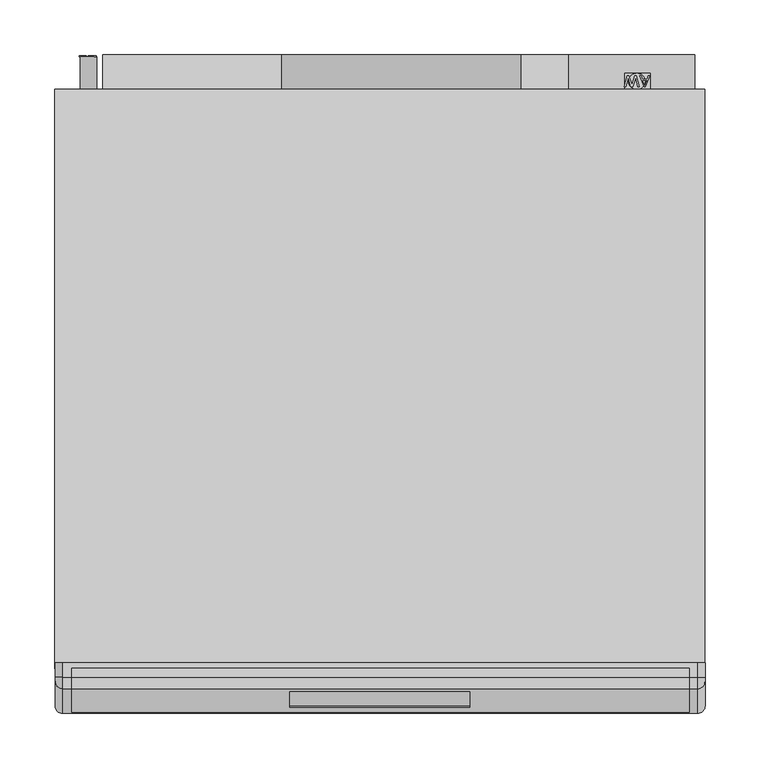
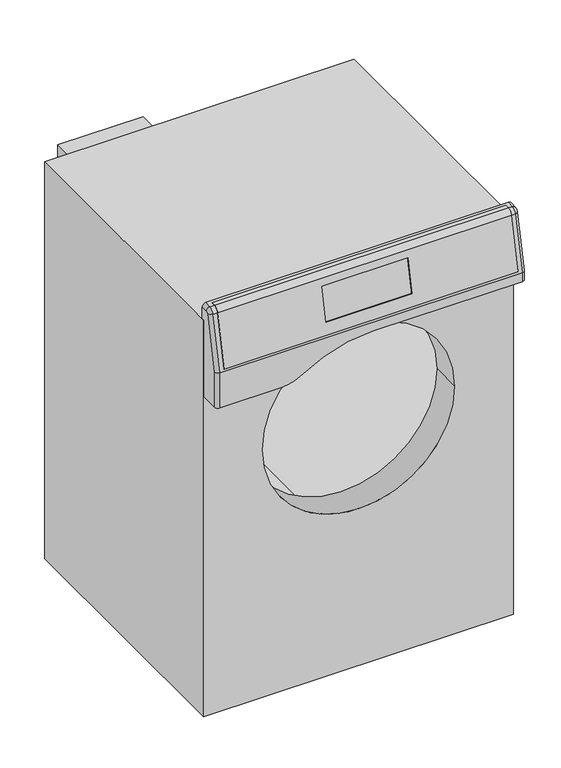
"""IFC4 building model written with IfcOpenShell, lengths in millimetres: proxy geometry, 12507220_NL_PDR1108HP_LWSmartBi : 52110801_NL_12507220_PDR1108HP_LWSmartBi."""

from ifc_helpers import new_model, si_unit, point, frame, frame_2d, origin, origin_with_axes, place, context, project, spatial, polyline, circle_curve, ellipse_curve, trimmed, segment, composite_curve, outline, extrude, source, transform, mapped, element, save
from ifc_brep_helpers import plane_surface, cylinder_surface, revolved_surface, advanced_brep


def specialty_equipment_631e05c3(model_context):
    return source(origin(), model_context, "Body", "SolidModel", [
        advanced_brep(
        [(284.0, -576.5042463, 835.7290958), (284.0, -566.9845398, 843.6465521), (284.0, -558.5, 843.8687276), (284.0, -558.5, 844.8690704), (284.0, -567.0107168, 844.6462094), (284.0, -577.4823939, 835.9370075), (284.0, -599.1497738, 734.0), (284.0, -598.1274332, 734.0), (-282.0, -576.5042463, 835.7290958), (-282.0, -598.1274332, 734.0), (-282.0, -599.1497738, 734.0), (-282.0, -577.4823939, 835.9370075), (-282.0, -567.0107168, 844.6462094), (-282.0, -558.5, 844.8690704), (-282.0, -558.5, 843.8687276), (-282.0, -566.9845398, 843.6465521), (82.5, -580.4447963, 822.0), (82.5, -594.2609728, 757.0), (-82.5, -594.2609728, 757.0), (-82.5, -580.4447963, 822.0), (82.5, -593.2386322, 757.0), (82.5, -579.4224557, 822.0), (-82.5, -579.4224557, 822.0), (-82.5, -593.2386322, 757.0)],
        [
            (0, 1, circle_curve(frame((284.0, -566.7227703, 833.6499789), z_axis=(-1.0, 0.0, 0.0), x_axis=(0.0, 1.0, 0.0)), 10.0)),
            (1, 2),
            (2, 3),
            (3, 4),
            (4, 5, circle_curve(frame((284.0, -566.7227703, 833.6499789), z_axis=(1.0, 0.0, 0.0), x_axis=(0.0, 1.0, 0.0)), 11.0)),
            (5, 6),
            (6, 7),
            (7, 0),
            (8, 9),
            (9, 10),
            (10, 11),
            (11, 12, circle_curve(frame((-282.0, -566.7227703, 833.6499789), z_axis=(-1.0, 0.0, 0.0), x_axis=(0.0, 1.0, 0.0)), 11.0)),
            (12, 13),
            (13, 14),
            (14, 15),
            (15, 8, circle_curve(frame((-282.0, -566.7227703, 833.6499789), z_axis=(1.0, 0.0, 0.0), x_axis=(0.0, 1.0, 0.0)), 10.0)),
            (0, 8),
            (15, 1),
            (14, 2),
            (13, 3),
            (12, 4),
            (11, 5),
            (10, 6),
            (16, 17),
            (17, 18),
            (18, 19),
            (19, 16),
            (9, 7),
            (20, 21),
            (21, 22),
            (22, 23),
            (23, 20),
            (20, 17),
            (16, 21),
            (22, 19),
            (18, 23),
        ],
        [
            plane_surface(frame((284.0, -556.7227703, 833.6499789), z_axis=(1.0, 0.0, 0.0), x_axis=(0.0, 0.0, -1.0))),
            plane_surface(frame((-282.0, -556.7227703, 833.6499789), z_axis=(-1.0, 0.0, 0.0), x_axis=(0.0, 0.0, 1.0))),
            revolved_surface(polyline([(-282.0, -556.7227703, 833.6499789), (284.0, -556.7227703, 833.6499789)]), (-282.0, -566.7227703, 833.6499789), (-1.0, 0.0, 0.0)),
            plane_surface(frame((284.0, -566.9845398, 843.6465521), z_axis=(0.0, 0.026176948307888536, -0.9996573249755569), x_axis=(-1.0, 0.0, 0.0))),
            plane_surface(frame((284.0, -558.5, 843.8687276), z_axis=(0.0, 1.0, 0.0), x_axis=(-1.0, 0.0, 0.0))),
            plane_surface(frame((284.0, -558.5, 844.8690704), z_axis=(0.0, -0.026176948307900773, 0.9996573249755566), x_axis=(-1.0, 0.0, 0.0))),
            cylinder_surface(frame((-282.0, -566.7227703, 833.6499789), z_axis=(1.0, 0.0, 0.0), x_axis=(0.0, 1.0, 0.0)), 11.0),
            plane_surface(frame((284.0, -577.4823939, 835.9370075), z_axis=(0.0, -0.9781476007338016, 0.2079116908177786), x_axis=(-1.0, 0.0, 0.0))),
            plane_surface(frame((284.0, -599.1497738, 734.0), z_axis=(0.0, 0.0, -1.0), x_axis=(-1.0, 0.0, 0.0))),
            plane_surface(frame((284.0, -598.1274332, 734.0), z_axis=(0.0, 0.9781476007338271, -0.20791169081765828), x_axis=(-1.0, 0.0, 0.0))),
            plane_surface(frame((82.5, -580.4447963, 822.0), z_axis=(-1.0, 0.0, 0.0), x_axis=(0.0, -1.0, 0.0))),
            plane_surface(frame((-82.5, -580.4447963, 822.0), z_axis=(1.0, 0.0, 0.0), x_axis=(0.0, 1.0, 0.0))),
            plane_surface(frame((82.5, -579.4224557, 822.0), z_axis=(0.0, 0.0, -1.0), x_axis=(-1.0, 0.0, 0.0))),
            plane_surface(frame((82.5, -594.2609728, 757.0), z_axis=(0.0, 0.0, 1.0), x_axis=(-1.0, 0.0, 0.0))),
        ],
        [
            (0, [[1, 2, 3, 4, 5, 6, 7, 8]]),
            (1, [[9, 10, 11, 12, 13, 14, 15, 16]]),
            (2, [[-1, 17, -16, 18]]),
            (3, [[-2, -18, -15, 19]]),
            (4, [[-3, -19, -14, 20]]),
            (5, [[-4, -20, -13, 21]]),
            (6, [[-5, -21, -12, 22]]),
            (7, [[-6, -22, -11, 23], [24, 25, 26, 27]]),
            (8, [[-7, -23, -10, 28]]),
            (9, [[-8, -28, -9, -17], [29, 30, 31, 32]]),
            (10, [[33, -24, 34, -29]]),
            (11, [[35, -26, 36, -31]]),
            (12, [[-34, -27, -35, -30]]),
            (13, [[-33, -32, -36, -25]]),
        ],
    ),
        advanced_brep(
        [(298.5, -559.0, 815.0), (298.5, -553.5, 815.0), (298.5, -553.5, 837.9976005), (298.5, -566.8274781, 837.6486082), (298.5, -570.6353607, 834.4816256), (298.5, -593.0, 729.2642704), (298.5, -593.0, 712.0), (298.5, -559.0, 712.0), (-297.5, -559.0, 815.0), (-297.5, -559.0, 659.0), (-297.5, -593.0, 659.0), (-297.5, -593.0, 729.2642704), (-297.5, -570.6353607, 834.4816256), (-297.5, -566.8274781, 837.6486082), (-297.5, -553.5, 837.9976005), (-297.5, -553.5, 815.0), (-290.5, -553.5, 845.0), (291.5, -553.5, 845.0), (284.0, -558.5, 844.8690704), (284.0, -567.0107168, 844.6462094), (291.5, -567.0107168, 844.6462094), (-290.5, -567.0107168, 844.6462094), (-282.0, -567.0107168, 844.6462094), (-282.0, -558.5, 844.8690704), (284.0, -577.4823939, 835.9370075), (291.5000072, -577.4823939, 835.9370075), (-282.0, -577.4823939, 835.9370075), (-290.5, -577.4823939, 835.9370075), (284.0, -599.1497738, 734.0), (-282.0, -599.1497738, 734.0), (-290.5, -600.0, 730.0), (291.5, -600.0, 730.0), (-290.5, -600.0, 659.0), (-170.6302935, -600.0, 659.0), (-135.780818, -600.0, 669.5165354), (5.0, -600.0, 712.0), (291.5, -600.0, 712.0), (-170.6302935, -559.0, 659.0), (5.0, -559.0, 712.0), (-135.780818, -559.0, 669.5165354), (284.0, -558.5, 843.8687276), (284.0, -566.9845398, 843.6465521), (284.0, -576.5042463, 835.7290958), (284.0, -598.1274332, 734.0), (-282.0, -598.1274332, 734.0), (-282.0, -576.5042463, 835.7290958), (-282.0, -566.9845398, 843.6465521), (-282.0, -558.5, 843.8687276)],
        [
            (0, 1),
            (1, 2),
            (2, 3),
            (3, 4, circle_curve(frame((298.5, -566.7227703, 833.6499789), z_axis=(1.0, 0.0, 0.0), x_axis=(0.0, -0.02617694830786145, 0.9996573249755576)), 4.0)),
            (4, 5),
            (5, 6),
            (6, 7),
            (7, 0),
            (8, 9),
            (9, 10),
            (10, 11),
            (11, 12),
            (12, 13, circle_curve(frame((-297.5, -566.7227703, 833.6499789), z_axis=(-1.0, 0.0, 0.0), x_axis=(0.0, -0.9781476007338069, 0.20791169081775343)), 4.0)),
            (13, 14),
            (14, 15),
            (15, 8),
            (0, 8),
            (15, 1),
            (14, 16, ellipse_curve(frame((-290.5, -553.5, 837.9976005), z_axis=(0.0, 1.0, 0.0), x_axis=(0.0, 0.0, 1.0)), 7.0023995, 7.0)),
            (16, 17),
            (17, 2, ellipse_curve(frame((291.5, -553.5, 837.9976005), z_axis=(0.0, 1.0, 0.0), x_axis=(0.0, 0.0, -1.0)), 7.0023995, 7.0)),
            (18, 19),
            (19, 20),
            (20, 17),
            (16, 21),
            (21, 22),
            (22, 23),
            (23, 18),
            (19, 24, circle_curve(frame((284.0, -566.7227703, 833.6499789), z_axis=(1.0, 0.0, 0.0), x_axis=(0.0, 1.0, 0.0)), 11.0)),
            (24, 25),
            (25, 20, circle_curve(frame((291.5, -566.7227703, 833.6499789), z_axis=(-1.0, 0.0, 0.0), x_axis=(0.0, 1.0, 0.0)), 11.0)),
            (26, 22, circle_curve(frame((-282.0, -566.7227703, 833.6499789), z_axis=(-1.0, 0.0, 0.0), x_axis=(0.0, 1.0, 0.0)), 11.0)),
            (21, 27, circle_curve(frame((-290.5, -566.7227703, 833.6499789), z_axis=(1.0, 0.0, 0.0), x_axis=(0.0, 1.0, 0.0)), 11.0)),
            (27, 26),
            (24, 28),
            (28, 29),
            (29, 26),
            (27, 30),
            (30, 31),
            (31, 25),
            (30, 32),
            (32, 33),
            (33, 34, circle_curve(frame((-170.6302935, -600.0, 722.0), z_axis=(0.0, -1.0, 0.0), x_axis=(1.0, 0.0, 0.0)), 63.0)),
            (34, 35, circle_curve(frame((5.0, -600.0, 457.5), z_axis=(0.0, 1.0, 0.0), x_axis=(1.0, 0.0, 0.0)), 254.5)),
            (35, 36),
            (36, 31),
            (9, 37),
            (37, 33),
            (32, 10, circle_curve(frame((-290.5, -593.0, 659.0), z_axis=(0.0, 0.0, -1.0), x_axis=(0.0, 1.0, 0.0)), 7.0)),
            (7, 38),
            (38, 39, circle_curve(frame((5.0, -559.0, 457.5), z_axis=(0.0, -1.0, 0.0), x_axis=(1.0, 0.0, 0.0)), 254.5)),
            (39, 37, circle_curve(frame((-170.6302935, -559.0, 722.0), z_axis=(0.0, 1.0, 0.0), x_axis=(1.0, 0.0, 0.0)), 63.0)),
            (18, 40),
            (40, 41),
            (41, 42, circle_curve(frame((284.0, -566.7227703, 833.6499789), z_axis=(1.0, 0.0, 0.0), x_axis=(0.0, 1.0, 0.0)), 10.0)),
            (42, 43),
            (43, 28),
            (29, 44),
            (44, 45),
            (45, 46, circle_curve(frame((-282.0, -566.7227703, 833.6499789), z_axis=(-1.0, 0.0, 0.0), x_axis=(0.0, 1.0, 0.0)), 10.0)),
            (46, 47),
            (47, 23),
            (43, 44),
            (42, 45),
            (41, 46),
            (40, 47),
            (30, 11, ellipse_curve(frame((-290.5, -593.0, 729.2642704), z_axis=(0.0, -0.10452846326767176, -0.9945218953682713), x_axis=(0.0, -0.9945218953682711, 0.10452846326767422)), 7.038558, 7.0)),
            (27, 12, circle_curve(frame((-290.5, -570.6353607, 834.4816256), z_axis=(0.0, -0.20791169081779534, -0.978147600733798), x_axis=(0.0, 0.978147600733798, -0.20791169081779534)), 7.0)),
            (21, 13, circle_curve(frame((-290.5, -566.8274781, 837.6486082), z_axis=(0.0, -0.9996573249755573, -0.026176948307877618), x_axis=(0.0, 0.026176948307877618, -0.9996573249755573)), 7.0)),
            (20, 3, circle_curve(frame((291.5, -566.8274781, 837.6486082), z_axis=(0.0, 0.9996573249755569, 0.026176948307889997), x_axis=(1.0, 0.0, 0.0)), 7.0)),
            (25, 4, circle_curve(frame((291.5, -570.6353607, 834.4816256), z_axis=(0.0, 0.20791169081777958, 0.9781476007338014), x_axis=(1.0, 0.0, 0.0)), 7.0)),
            (31, 5, ellipse_curve(frame((291.5, -593.0, 729.2642704), z_axis=(0.0, 0.10452846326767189, 0.9945218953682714), x_axis=(0.0, -0.9945218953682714, 0.1045284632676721)), 7.038558, 7.0)),
            (36, 6, circle_curve(frame((291.5, -593.0, 712.0), z_axis=(0.0, 0.0, 1.0), x_axis=(1.0, 0.0, 0.0)), 7.0)),
            (35, 38),
            (34, 39),
        ],
        [
            plane_surface(frame((298.5, -553.5, 815.0), z_axis=(1.0, 0.0, 0.0), x_axis=(0.0, 1.0, 0.0))),
            plane_surface(frame((-297.5, -553.5, 815.0), z_axis=(-1.0, 0.0, 0.0), x_axis=(0.0, -1.0, 0.0))),
            plane_surface(frame((298.5, -559.0, 815.0), z_axis=(0.0, 0.0, -1.0), x_axis=(-1.0, 0.0, 0.0))),
            plane_surface(frame((298.5, -553.5, 815.0), z_axis=(0.0, 1.0, 0.0), x_axis=(-1.0, 0.0, 0.0))),
            plane_surface(frame((298.5, -553.5, 845.0), z_axis=(0.0, -0.026176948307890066, 0.9996573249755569), x_axis=(-1.0, 0.0, 0.0))),
            cylinder_surface(frame((-297.5, -566.7227703, 833.6499789), z_axis=(1.0, 0.0, 0.0), x_axis=(0.0, 1.0, 0.0)), 11.0),
            plane_surface(frame((298.5, -577.4823939, 835.9370075), z_axis=(0.0, -0.978147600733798, 0.20791169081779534), x_axis=(-1.0, 0.0, 0.0))),
            plane_surface(frame((298.5, -600.0, 730.0), z_axis=(0.0, -1.0, 0.0), x_axis=(-1.0, 0.0, 0.0))),
            plane_surface(frame((298.5, -600.0, 659.0), z_axis=(0.0, 0.0, -1.0), x_axis=(-1.0, 0.0, 0.0))),
            plane_surface(frame((298.5, -559.0, 659.0), z_axis=(0.0, 1.0, 0.0), x_axis=(-1.0, 0.0, 0.0))),
            plane_surface(frame((284.0, -599.1497738, 734.0), z_axis=(-1.0, 0.0, 0.0), x_axis=(0.0, 1.0, 0.0))),
            plane_surface(frame((-282.0, -599.1497738, 734.0), z_axis=(1.0, 0.0, 0.0), x_axis=(0.0, -1.0, 0.0))),
            plane_surface(frame((284.0, -599.1497738, 734.0), z_axis=(0.0, 0.0, 1.0), x_axis=(-1.0, 0.0, 0.0))),
            plane_surface(frame((284.0, -598.1274332, 734.0), z_axis=(0.0, -0.9781476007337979, 0.20791169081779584), x_axis=(-1.0, 0.0, 0.0))),
            cylinder_surface(frame((-282.0, -566.7227703, 833.6499789), z_axis=(-1.0, 0.0, 0.0), x_axis=(0.0, 1.0, 0.0)), 10.0),
            plane_surface(frame((284.0, -566.9845398, 843.6465521), z_axis=(0.0, -0.026176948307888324, 0.9996573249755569), x_axis=(-1.0, 0.0, 0.0))),
            plane_surface(frame((284.0, -558.5, 843.8687276), z_axis=(0.0, -1.0, 0.0), x_axis=(-1.0, 0.0, 0.0))),
            cylinder_surface(frame((-290.5, -593.0, 659.0), z_axis=(0.0, 0.0, 1.0), x_axis=(0.0, 1.0, 0.0)), 7.0),
            cylinder_surface(frame((-290.5, -593.1529668, 728.5446182), z_axis=(0.0, 0.20791169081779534, 0.978147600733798), x_axis=(0.0, 0.978147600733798, -0.20791169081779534)), 7.0),
            revolved_surface(trimmed(ellipse_curve(frame((-290.5, -570.6353607, 834.4816256), z_axis=(0.0, -0.2079116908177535, -0.9781476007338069), x_axis=(0.0, 0.9781476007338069, -0.2079116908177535)), 7.0, 7.0), [point((-290.5, -577.4823939, 835.9370075))], [point((-297.5, -570.6353607, 834.4816256))], True, "CARTESIAN"), (-297.5, -566.7227703, 833.6499789), (-1.0, 0.0, 0.0)),
            cylinder_surface(frame((-290.5, -566.8274781, 837.6486082), z_axis=(0.0, 0.9996573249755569, 0.02617694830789), x_axis=(0.0, 0.02617694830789, -0.9996573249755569)), 7.0),
            cylinder_surface(frame((291.5, -553.3167614, 838.0023987), z_axis=(0.0, -0.9996573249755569, -0.026176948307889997), x_axis=(1.0, 0.0, 0.0)), 7.0),
            revolved_surface(trimmed(ellipse_curve(frame((291.5, -566.8274781, 837.6486082), z_axis=(0.0, 0.9996573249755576, 0.02617694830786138), x_axis=(1.0, 0.0, 0.0)), 7.0, 7.0), [point((291.5, -567.0107168, 844.6462094))], [point((298.5, -566.8274781, 837.6486082))], True, "CARTESIAN"), (298.5, -566.7227703, 833.6499789), (1.0, 0.0, 0.0)),
            cylinder_surface(frame((291.5, -570.6353607, 834.4816256), z_axis=(0.0, -0.20791169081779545, -0.9781476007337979), x_axis=(1.0, 0.0, 0.0)), 7.0),
            cylinder_surface(frame((291.5, -593.0, 730.0), z_axis=(0.0, 0.0, -1.0), x_axis=(1.0, 0.0, 0.0)), 7.0),
            plane_surface(frame((298.5, -600.0, 712.0), z_axis=(0.0, 0.0, -1.0), x_axis=(0.0, 1.0, 0.0))),
            revolved_surface(polyline([(259.5, -600.0, 457.5), (259.5, -559.0, 457.5)]), (5.0, -559.0, 457.5), (0.0, -1.0, 0.0)),
            cylinder_surface(frame((-170.6302935, -559.0, 722.0), z_axis=(0.0, 1.0, 0.0), x_axis=(1.0, 0.0, 0.0)), 63.0),
        ],
        [
            (0, [[1, 2, 3, 4, 5, 6, 7, 8]]),
            (1, [[9, 10, 11, 12, 13, 14, 15, 16]]),
            (2, [[-1, 17, -16, 18]]),
            (3, [[-18, -15, 19, 20, 21, -2]]),
            (4, [[22, 23, 24, -20, 25, 26, 27, 28]]),
            (5, [[29, 30, 31, -23]]),
            (5, [[32, -26, 33, 34]]),
            (6, [[35, 36, 37, -34, 38, 39, 40, -30]]),
            (7, [[41, 42, 43, 44, 45, 46, -39]]),
            (8, [[-10, 47, 48, -42, 49]]),
            (9, [[-9, -17, -8, 50, 51, 52, -47]]),
            (10, [[53, 54, 55, 56, 57, -35, -29, -22]]),
            (11, [[58, 59, 60, 61, 62, -27, -32, -37]]),
            (12, [[-57, 63, -58, -36]]),
            (13, [[-56, 64, -59, -63]]),
            (14, [[-55, 65, -60, -64]]),
            (15, [[-54, 66, -61, -65]]),
            (16, [[-53, -28, -62, -66]]),
            (17, [[67, -11, -49, -41]]),
            (18, [[-67, -38, 68, -12]]),
            (19, [[-68, -33, 69, -13]]),
            (20, [[-69, -25, -19, -14]]),
            (21, [[70, -3, -21, -24]]),
            (22, [[-70, -31, 71, -4]]),
            (23, [[-71, -40, 72, -5]]),
            (24, [[-72, -46, 73, -6]]),
            (25, [[74, -50, -7, -73, -45]]),
            (26, [[-74, -44, 75, -51]]),
            (27, [[-75, -43, -48, -52]]),
        ],
    ),
        extrude(outline(polyline([(247.0, -259.6227397), (257.045631, -259.6227397), (257.045631, -266.843037), (255.7899271, -266.843037), (255.7899271, -260.8784436), (252.8076304, -260.8784436), (252.8076304, -266.529111), (251.5519266, -266.529111), (251.5519266, -260.8784436), (248.2557039, -260.8784436), (248.2557039, -267.0), (247.0, -267.0), (247.0, -259.6227397)])), frame((0.0, 2.0, 0.0), z_axis=(0.0, 1.0, 0.0), x_axis=(0.0, 0.0, 1.0)), (0.0, 0.0, 1.0), 1.0),
        extrude(outline(polyline([(247.0, -268.8835558), (257.045631, -268.8835558), (257.045631, -270.1392597), (248.2557039, -270.1392597), (248.2557039, -275.1620752), (247.0, -275.1620752), (247.0, -268.8835558)])), frame((0.0, 2.0, 0.0), z_axis=(0.0, 1.0, 0.0), x_axis=(0.0, 0.0, 1.0)), (0.0, 0.0, 1.0), 1.0),
        extrude(outline(polyline([(247.6839322, -15.5), (243.6740184, -25.545631), (242.6047081, -25.545631), (238.5972469, -15.5), (239.9240746, -15.5), (241.0718664, -18.6392597), (245.2117652, -18.6392597), (246.359557, -15.5), (247.6839322, -15.5)]), holes=[polyline([(244.7506864, -19.8949636), (241.5304927, -19.8949636), (242.4379349, -22.364678), (243.1418158, -24.2899271), (243.7672152, -22.5805021), (244.7506864, -19.8949636)])]), frame((0.0, 0.0, 306.0), z_axis=(0.0, 0.0, 1.0), x_axis=(1.0, 0.0, 0.0)), (0.0, 0.0, 1.0), 1.0),
        extrude(outline(polyline([(235.4579872, -15.5), (238.1974818, -25.545631), (236.9025372, -25.545631), (235.3132869, -18.9433755), (234.8227776, -16.9053092), (234.2979326, -18.707931), (232.3064648, -25.545631), (230.4400768, -25.545631), (228.9930743, -20.5890343), (227.9164063, -16.9053092), (227.4406122, -18.8845144), (225.8390993, -25.545631), (224.5417021, -25.545631), (227.2787442, -15.5), (228.6227397, -15.5), (231.0335931, -23.2500474), (231.369592, -24.3316204), (231.7472841, -23.0293182), (233.9423134, -15.5), (235.4579872, -15.5)])), frame((0.0, 0.0, 306.0), z_axis=(0.0, 0.0, 1.0), x_axis=(1.0, 0.0, 0.0)), (0.0, 0.0, 1.0), 1.0),
        extrude(outline(composite_curve([segment(trimmed(circle_curve(frame_2d((236.0, -20.5)), 7.5), [point((228.5, -20.5))], [point((243.5, -20.5))], False, "CARTESIAN"), True, "CONTINUOUS"), segment(trimmed(circle_curve(frame_2d((236.0, -20.5)), 7.5), [point((243.5, -20.5))], [point((228.5, -20.5))], False, "CARTESIAN"), True, "CONTINUOUS")], self_intersect=False)), frame((0.0, 0.0, 276.0), z_axis=(0.0, 0.0, 1.0), x_axis=(1.0, 0.0, 0.0)), (0.0, 0.0, 1.0), 30.0),
        extrude(outline(composite_curve([segment(trimmed(circle_curve(frame_2d((252.0, -267.0)), 7.5), [point((252.0, -259.5))], [point((252.0, -274.5))], False, "CARTESIAN"), True, "CONTINUOUS"), segment(trimmed(circle_curve(frame_2d((252.0, -267.0)), 7.5), [point((252.0, -274.5))], [point((252.0, -259.5))], False, "CARTESIAN"), True, "CONTINUOUS")], self_intersect=False)), frame((0.0, -28.0, 0.0), z_axis=(0.0, 1.0, 0.0), x_axis=(0.0, 0.0, 1.0)), (0.0, 0.0, 1.0), 30.0),
        advanced_brep(
        [(-185.0, -501.5, 512.0), (-185.0, -559.0, 512.0), (185.0, -559.0, 512.0), (185.0, -501.5, 512.0), (298.0, -28.0, 815.0), (298.0, -28.0, 8.0), (-298.0, -28.0, 8.0), (-298.0, -28.0, 815.0), (298.0, -559.0, 815.0), (-298.0, -559.0, 815.0), (-298.0, -559.0, 8.0), (298.0, -559.0, 8.0), (298.0, -470.0, 649.0), (298.0, -470.0, 719.0), (298.0, -120.0, 719.0), (298.0, -120.0, 649.0), (298.0, -470.0, 552.0), (298.0, -470.0, 622.0), (298.0, -120.0, 622.0), (298.0, -120.0, 552.0), (298.0, -470.0, 205.5), (298.0, -470.0, 275.5), (298.0, -120.0, 275.5), (298.0, -120.0, 205.5), (298.0, -470.0, 108.5), (298.0, -470.0, 178.5), (298.0, -120.0, 178.5), (298.0, -120.0, 108.5), (0.0, -51.0, 227.0), (0.0, -51.0, 797.0), (0.0, -501.5, 227.0), (0.0, -501.5, 797.0), (291.0, -470.0, 719.0), (291.0, -470.0, 649.0), (291.0, -120.0, 649.0), (291.0, -120.0, 719.0), (291.0, -470.0, 622.0), (291.0, -470.0, 552.0), (291.0, -120.0, 552.0), (291.0, -120.0, 622.0), (291.0, -470.0, 275.5), (291.0, -470.0, 205.5), (291.0, -120.0, 205.5), (291.0, -120.0, 275.5), (291.0, -470.0, 178.5), (291.0, -470.0, 108.5), (291.0, -120.0, 108.5), (291.0, -120.0, 178.5)],
        [
            (0, 1),
            (1, 2, circle_curve(frame((0.0, -559.0, 512.0), z_axis=(0.0, -1.0, 0.0), x_axis=(-1.0, 0.0, 0.0)), 185.0)),
            (2, 3),
            (3, 0, circle_curve(frame((0.0, -501.5, 512.0), z_axis=(0.0, 1.0, 0.0), x_axis=(-1.0, 0.0, 0.0)), 185.0)),
            (0, 3, circle_curve(frame((0.0, -501.5, 512.0), z_axis=(0.0, 1.0, 0.0), x_axis=(-1.0, 0.0, 0.0)), 185.0)),
            (2, 1, circle_curve(frame((0.0, -559.0, 512.0), z_axis=(0.0, -1.0, 0.0), x_axis=(-1.0, 0.0, 0.0)), 185.0)),
            (4, 5),
            (5, 6),
            (6, 7),
            (7, 4),
            (8, 9),
            (9, 10),
            (10, 11),
            (11, 8),
            (4, 8),
            (11, 5),
            (12, 13, circle_curve(frame((298.0, -470.0, 684.0), z_axis=(-1.0, 0.0, 0.0), x_axis=(0.0, 1.0, 0.0)), 35.0)),
            (13, 14),
            (14, 15, circle_curve(frame((298.0, -120.0, 684.0), z_axis=(-1.0, 0.0, 0.0), x_axis=(0.0, 1.0, 0.0)), 35.0)),
            (15, 12),
            (16, 17, circle_curve(frame((298.0, -470.0, 587.0), z_axis=(-1.0, 0.0, 0.0), x_axis=(0.0, 1.0, 0.0)), 35.0)),
            (17, 18),
            (18, 19, circle_curve(frame((298.0, -120.0, 587.0), z_axis=(-1.0, 0.0, 0.0), x_axis=(0.0, 1.0, 0.0)), 35.0)),
            (19, 16),
            (20, 21, circle_curve(frame((298.0, -470.0, 240.5), z_axis=(-1.0, 0.0, 0.0), x_axis=(0.0, 1.0, 0.0)), 35.0)),
            (21, 22),
            (22, 23, circle_curve(frame((298.0, -120.0, 240.5), z_axis=(-1.0, 0.0, 0.0), x_axis=(0.0, 1.0, 0.0)), 35.0)),
            (23, 20),
            (24, 25, circle_curve(frame((298.0, -470.0, 143.5), z_axis=(-1.0, 0.0, 0.0), x_axis=(0.0, 1.0, 0.0)), 35.0)),
            (25, 26),
            (26, 27, circle_curve(frame((298.0, -120.0, 143.5), z_axis=(-1.0, 0.0, 0.0), x_axis=(0.0, 1.0, 0.0)), 35.0)),
            (27, 24),
            (10, 6),
            (9, 7),
            (28, 29, circle_curve(frame((0.0, -51.0, 512.0), z_axis=(0.0, -1.0, 0.0), x_axis=(0.0, 0.0, 1.0)), 285.0)),
            (29, 28, circle_curve(frame((0.0, -51.0, 512.0), z_axis=(0.0, -1.0, 0.0), x_axis=(0.0, 0.0, 1.0)), 285.0)),
            (30, 31, circle_curve(frame((0.0, -501.5, 512.0), z_axis=(0.0, 1.0, 0.0), x_axis=(0.0, 0.0, 1.0)), 285.0)),
            (31, 30, circle_curve(frame((0.0, -501.5, 512.0), z_axis=(0.0, 1.0, 0.0), x_axis=(0.0, 0.0, 1.0)), 285.0)),
            (28, 30),
            (31, 29),
            (32, 33, circle_curve(frame((291.0, -470.0, 684.0), z_axis=(1.0, 0.0, 0.0), x_axis=(0.0, 1.0, 0.0)), 35.0)),
            (33, 34),
            (34, 35, circle_curve(frame((291.0, -120.0, 684.0), z_axis=(1.0, 0.0, 0.0), x_axis=(0.0, 1.0, 0.0)), 35.0)),
            (35, 32),
            (36, 37, circle_curve(frame((291.0, -470.0, 587.0), z_axis=(1.0, 0.0, 0.0), x_axis=(0.0, 1.0, 0.0)), 35.0)),
            (37, 38),
            (38, 39, circle_curve(frame((291.0, -120.0, 587.0), z_axis=(1.0, 0.0, 0.0), x_axis=(0.0, 1.0, 0.0)), 35.0)),
            (39, 36),
            (40, 41, circle_curve(frame((291.0, -470.0, 240.5), z_axis=(1.0, 0.0, 0.0), x_axis=(0.0, 1.0, 0.0)), 35.0)),
            (41, 42),
            (42, 43, circle_curve(frame((291.0, -120.0, 240.5), z_axis=(1.0, 0.0, 0.0), x_axis=(0.0, 1.0, 0.0)), 35.0)),
            (43, 40),
            (44, 45, circle_curve(frame((291.0, -470.0, 143.5), z_axis=(1.0, 0.0, 0.0), x_axis=(0.0, 1.0, 0.0)), 35.0)),
            (45, 46),
            (46, 47, circle_curve(frame((291.0, -120.0, 143.5), z_axis=(1.0, 0.0, 0.0), x_axis=(0.0, 1.0, 0.0)), 35.0)),
            (47, 44),
            (32, 13),
            (12, 33),
            (15, 34),
            (14, 35),
            (36, 17),
            (16, 37),
            (19, 38),
            (18, 39),
            (40, 21),
            (20, 41),
            (23, 42),
            (22, 43),
            (44, 25),
            (24, 45),
            (27, 46),
            (26, 47),
        ],
        [
            revolved_surface(polyline([(-185.0, -501.5, 512.0), (-185.0, -559.0, 512.0)]), (0.0, -559.0, 512.0), (0.0, 1.0, 0.0)),
            plane_surface(frame((298.0, -28.0, 815.0), z_axis=(0.0, 1.0, 0.0), x_axis=(0.0, 0.0, -1.0))),
            plane_surface(frame((298.0, -559.0, 815.0), z_axis=(0.0, -1.0, 0.0), x_axis=(0.0, 0.0, 1.0))),
            plane_surface(frame((298.0, -28.0, 815.0), z_axis=(1.0, 0.0, 0.0), x_axis=(0.0, -1.0, 0.0))),
            plane_surface(frame((298.0, -28.0, 8.0), z_axis=(0.0, 0.0, -1.0), x_axis=(0.0, -1.0, 0.0))),
            plane_surface(frame((-298.0, -28.0, 8.0), z_axis=(-1.0, 0.0, 0.0), x_axis=(0.0, -1.0, 0.0))),
            plane_surface(frame((-298.0, -28.0, 815.0), z_axis=(0.0, 0.0, 1.0), x_axis=(0.0, -1.0, 0.0))),
            plane_surface(frame((0.0, -51.0, 797.0), z_axis=(0.0, -1.0, 0.0), x_axis=(1.0, 0.0, 0.0))),
            plane_surface(frame((0.0, -501.5, 797.0), z_axis=(0.0, 1.0, 0.0), x_axis=(-1.0, 0.0, 0.0))),
            revolved_surface(polyline([(0.0, -501.5, 797.0), (0.0, -51.0, 797.0)]), (0.0, -51.0, 512.0), (0.0, -1.0, 0.0)),
            plane_surface(frame((291.0, -435.0, 684.0), z_axis=(1.0, 0.0, 0.0), x_axis=(0.0, 0.0, -1.0))),
            revolved_surface(polyline([(298.0, -435.0, 684.0), (291.0, -435.0, 684.0)]), (291.0, -470.0, 684.0), (1.0, 0.0, 0.0)),
            plane_surface(frame((298.0, -470.0, 649.0), z_axis=(0.0, 0.0, 1.0), x_axis=(-1.0, 0.0, 0.0))),
            revolved_surface(polyline([(298.0, -85.0, 684.0), (291.0, -85.0, 684.0)]), (291.0, -120.0, 684.0), (1.0, 0.0, 0.0)),
            plane_surface(frame((298.0, -120.0, 719.0), z_axis=(0.0, 0.0, -1.0), x_axis=(-1.0, 0.0, 0.0))),
            revolved_surface(polyline([(298.0, -435.0, 587.0), (291.0, -435.0, 587.0)]), (298.0, -470.0, 587.0), (1.0, 0.0, 0.0)),
            plane_surface(frame((298.0, -470.0, 552.0), z_axis=(0.0, 0.0, 1.0), x_axis=(-1.0, 0.0, 0.0))),
            revolved_surface(polyline([(298.0, -85.0, 587.0), (291.0, -85.0, 587.0)]), (298.0, -120.0, 587.0), (1.0, 0.0, 0.0)),
            plane_surface(frame((298.0, -120.0, 622.0), z_axis=(0.0, 0.0, -1.0), x_axis=(-1.0, 0.0, 0.0))),
            revolved_surface(polyline([(298.0, -435.0, 240.5), (291.0, -435.0, 240.5)]), (298.0, -470.0, 240.5), (1.0, 0.0, 0.0)),
            plane_surface(frame((298.0, -470.0, 205.5), z_axis=(0.0, 0.0, 1.0), x_axis=(-1.0, 0.0, 0.0))),
            revolved_surface(polyline([(298.0, -85.0, 240.5), (291.0, -85.0, 240.5)]), (298.0, -120.0, 240.5), (1.0, 0.0, 0.0)),
            plane_surface(frame((298.0, -120.0, 275.5), z_axis=(0.0, 0.0, -1.0), x_axis=(-1.0, 0.0, 0.0))),
            revolved_surface(polyline([(298.0, -435.0, 143.5), (291.0, -435.0, 143.5)]), (298.0, -470.0, 143.5), (1.0, 0.0, 0.0)),
            plane_surface(frame((298.0, -470.0, 108.5), z_axis=(0.0, 0.0, 1.0), x_axis=(-1.0, 0.0, 0.0))),
            revolved_surface(polyline([(298.0, -85.0, 143.5), (291.0, -85.0, 143.5)]), (298.0, -120.0, 143.5), (1.0, 0.0, 0.0)),
            plane_surface(frame((298.0, -120.0, 178.5), z_axis=(0.0, 0.0, -1.0), x_axis=(-1.0, 0.0, 0.0))),
        ],
        [
            (0, [[1, 2, 3, 4]]),
            (0, [[-1, 5, -3, 6]]),
            (1, [[7, 8, 9, 10]]),
            (2, [[11, 12, 13, 14], [-2, -6]]),
            (3, [[-7, 15, -14, 16], [17, 18, 19, 20], [21, 22, 23, 24], [25, 26, 27, 28], [29, 30, 31, 32]]),
            (4, [[-8, -16, -13, 33]]),
            (5, [[-9, -33, -12, 34]]),
            (6, [[-10, -34, -11, -15]]),
            (7, [[35, 36]]),
            (8, [[37, 38], [-4, -5]]),
            (9, [[-35, 39, -38, 40]]),
            (9, [[-36, -40, -37, -39]]),
            (10, [[41, 42, 43, 44]]),
            (10, [[45, 46, 47, 48]]),
            (10, [[49, 50, 51, 52]]),
            (10, [[53, 54, 55, 56]]),
            (11, [[-41, 57, -17, 58]]),
            (12, [[-42, -58, -20, 59]]),
            (13, [[-43, -59, -19, 60]]),
            (14, [[-44, -60, -18, -57]]),
            (15, [[-45, 61, -21, 62]]),
            (16, [[-46, -62, -24, 63]]),
            (17, [[-47, -63, -23, 64]]),
            (18, [[-48, -64, -22, -61]]),
            (19, [[-49, 65, -25, 66]]),
            (20, [[-50, -66, -28, 67]]),
            (21, [[-51, -67, -27, 68]]),
            (22, [[-52, -68, -26, -65]]),
            (23, [[-53, 69, -29, 70]]),
            (24, [[-54, -70, -32, 71]]),
            (25, [[-55, -71, -31, 72]]),
            (26, [[-56, -72, -30, -69]]),
        ],
    ),
        extrude(outline(composite_curve([segment(trimmed(circle_curve(frame_2d((-267.5, -61.0)), 16.0), [point((-251.5, -61.0))], [point((-283.5, -61.0))], False, "CARTESIAN"), True, "CONTINUOUS"), segment(trimmed(circle_curve(frame_2d((-267.5, -61.0)), 16.0), [point((-283.5, -61.0))], [point((-251.5, -61.0))], False, "CARTESIAN"), True, "CONTINUOUS")], self_intersect=False)), origin_with_axes(), (0.0, 0.0, 1.0), 8.0),
        extrude(outline(composite_curve([segment(trimmed(circle_curve(frame_2d((267.5, -61.0)), 16.0), [point((283.5, -61.0))], [point((251.5, -61.0))], False, "CARTESIAN"), True, "CONTINUOUS"), segment(trimmed(circle_curve(frame_2d((267.5, -61.0)), 16.0), [point((251.5, -61.0))], [point((283.5, -61.0))], False, "CARTESIAN"), True, "CONTINUOUS")], self_intersect=False)), origin_with_axes(), (0.0, 0.0, 1.0), 8.0),
        extrude(outline(composite_curve([segment(trimmed(circle_curve(frame_2d((267.5, -531.0)), 16.0), [point((283.5, -531.0))], [point((251.5, -531.0))], False, "CARTESIAN"), True, "CONTINUOUS"), segment(trimmed(circle_curve(frame_2d((267.5, -531.0)), 16.0), [point((251.5, -531.0))], [point((283.5, -531.0))], False, "CARTESIAN"), True, "CONTINUOUS")], self_intersect=False)), origin_with_axes(), (0.0, 0.0, 1.0), 8.0),
        extrude(outline(composite_curve([segment(trimmed(circle_curve(frame_2d((-267.5, -531.0)), 16.0), [point((-251.5, -531.0))], [point((-283.5, -531.0))], False, "CARTESIAN"), True, "CONTINUOUS"), segment(trimmed(circle_curve(frame_2d((-267.5, -531.0)), 16.0), [point((-283.5, -531.0))], [point((-251.5, -531.0))], False, "CARTESIAN"), True, "CONTINUOUS")], self_intersect=False)), origin_with_axes(), (0.0, 0.0, 1.0), 8.0),
        advanced_brep(
        [(-8.0, 4.0, 14.0), (-125.6828173, 4.0, 486.0), (128.0718894, 4.0, 498.0), (106.0, 4.0, 288.0), (173.0, 4.0, 288.0), (289.0, 4.0, 172.0), (289.0, 4.0, 131.0), (203.9473319, 4.0, 14.0), (106.0, -28.0, 288.0), (128.0718894, -28.0, 498.0), (-125.6828173, -28.0, 486.0), (-8.0, -28.0, 14.0), (203.9473319, -28.0, 14.0), (289.0, -28.0, 131.0), (289.0, -28.0, 172.0), (248.0, -28.0, 260.4929376), (248.0, -28.0, 276.0), (225.0, -28.0, 276.0), (225.0, -28.0, 275.6918512), (173.0, -28.0, 288.0), (225.0, -13.0, 275.6918512), (248.0, -13.0, 260.4929376), (225.0, -13.0, 276.0), (248.0, -13.0, 276.0)],
        [
            (0, 1),
            (1, 2, circle_curve(frame((-0.003567, 4.0, 517.3353565), z_axis=(0.0, 1.0, 0.0), x_axis=(-1.0, 0.0, 0.0)), 129.5267484)),
            (2, 3),
            (3, 4),
            (4, 5, circle_curve(frame((173.0, 4.0, 172.0), z_axis=(0.0, 1.0, 0.0), x_axis=(-1.0, 0.0, 0.0)), 116.0)),
            (5, 6),
            (6, 7, circle_curve(frame((166.0, 4.0, 131.0), z_axis=(0.0, 1.0, 0.0), x_axis=(-1.0, 0.0, 0.0)), 123.0)),
            (7, 0),
            (8, 9),
            (9, 10, circle_curve(frame((-0.003567, -28.0, 517.3353565), z_axis=(0.0, -1.0, 0.0), x_axis=(-1.0, 0.0, 0.0)), 129.5267484)),
            (10, 11),
            (11, 12),
            (12, 13, circle_curve(frame((166.0, -28.0, 131.0), z_axis=(0.0, -1.0, 0.0), x_axis=(-1.0, 0.0, 0.0)), 123.0)),
            (13, 14),
            (14, 15, circle_curve(frame((173.0, -28.0, 172.0), z_axis=(0.0, -1.0, 0.0), x_axis=(-1.0, 0.0, 0.0)), 116.0)),
            (15, 16),
            (16, 17),
            (17, 18),
            (18, 19, circle_curve(frame((173.0, -28.0, 172.0), z_axis=(0.0, -1.0, 0.0), x_axis=(-1.0, 0.0, 0.0)), 116.0)),
            (19, 8),
            (13, 6),
            (5, 14),
            (11, 0),
            (7, 12),
            (10, 1),
            (3, 8),
            (19, 4),
            (9, 2),
            (18, 20),
            (20, 21, circle_curve(frame((173.0, -13.0, 172.0), z_axis=(0.0, 1.0, 0.0), x_axis=(-1.0, 0.0, 0.0)), 116.0)),
            (21, 15),
            (22, 23),
            (23, 21),
            (20, 22),
            (22, 17),
            (16, 23),
        ],
        [
            plane_surface(frame((289.0, 4.0, 14.0), z_axis=(0.0, 1.0, 0.0), x_axis=(0.0, 0.0, -1.0))),
            plane_surface(frame((289.0, -28.0, 14.0), z_axis=(0.0, -1.0, 0.0), x_axis=(0.0, 0.0, 1.0))),
            plane_surface(frame((289.0, 4.0, 288.0), z_axis=(1.0, 0.0, 0.0), x_axis=(0.0, -1.0, 0.0))),
            plane_surface(frame((289.0, 4.0, 14.0), z_axis=(0.0, 0.0, -1.0), x_axis=(0.0, -1.0, 0.0))),
            plane_surface(frame((-8.0, 4.0, 14.0), z_axis=(-0.970295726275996, 0.0, -0.2419218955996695), x_axis=(0.0, -1.0, 0.0))),
            plane_surface(frame((106.0, 4.0, 288.0), z_axis=(0.0, 0.0, 1.0), x_axis=(0.0, -1.0, 0.0))),
            cylinder_surface(frame((-0.003567, -28.0, 517.3353565), z_axis=(0.0, 1.0, 0.0), x_axis=(-1.0, 0.0, 0.0)), 129.5267484),
            plane_surface(frame((128.0718894, 4.0, 498.0), z_axis=(0.9945218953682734, 0.0, -0.10452846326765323), x_axis=(0.0, -1.0, 0.0))),
            cylinder_surface(frame((166.0, -28.0, 131.0), z_axis=(0.0, -1.0, 0.0), x_axis=(-1.0, 0.0, 0.0)), 123.0),
            cylinder_surface(frame((173.0, -28.0, 172.0), z_axis=(0.0, -1.0, 0.0), x_axis=(-1.0, 0.0, 0.0)), 116.0),
            plane_surface(frame((248.0, -13.0, 276.0), z_axis=(0.0, 1.0, 0.0), x_axis=(1.0, 0.0, 0.0))),
            plane_surface(frame((225.0, -13.0, 276.0), z_axis=(0.0, 0.0, 1.0), x_axis=(0.0, -1.0, 0.0))),
            plane_surface(frame((248.0, -13.0, 276.0), z_axis=(1.0, 0.0, 0.0), x_axis=(0.0, -1.0, 0.0))),
            plane_surface(frame((225.0, -13.0, 259.1798006), z_axis=(-1.0, 0.0, 0.0), x_axis=(0.0, -1.0, 0.0))),
        ],
        [
            (0, [[1, 2, 3, 4, 5, 6, 7, 8]]),
            (1, [[9, 10, 11, 12, 13, 14, 15, 16, 17, 18, 19, 20]]),
            (2, [[21, -6, 22, -14]]),
            (3, [[23, -8, 24, -12]]),
            (4, [[-1, -23, -11, 25]]),
            (5, [[26, -20, 27, -4]]),
            (6, [[-2, -25, -10, 28]]),
            (7, [[-3, -28, -9, -26]]),
            (8, [[-7, -21, -13, -24]]),
            (9, [[-5, -27, -19, 29, 30, 31, -15, -22]]),
            (10, [[32, 33, -30, 34]]),
            (11, [[-32, 35, -17, 36]]),
            (12, [[-36, -16, -31, -33]]),
            (13, [[-35, -34, -29, -18]]),
        ],
    ),
        extrude(outline(composite_curve([segment(polyline([(226.0, -87.0), (342.0, -122.464759)]), True, "CONTINUOUS"), segment(trimmed(circle_curve(frame_2d((324.1353162, -180.897507)), 61.1026428), [point((342.0, -122.464759))], [point((324.0, -242.0))], False, "CARTESIAN"), True, "CONTINUOUS"), segment(polyline([(324.0, -242.0), (107.0, -242.0)]), True, "CONTINUOUS"), segment(trimmed(circle_curve(frame_2d((107.0, -164.5)), 77.5), [point((107.0, -242.0))], [point((107.0, -87.0))], False, "CARTESIAN"), True, "CONTINUOUS"), segment(polyline([(107.0, -87.0), (226.0, -87.0)]), True, "CONTINUOUS")], self_intersect=False)), frame((0.0, -28.0, 0.0), z_axis=(0.0, 1.0, 0.0), x_axis=(0.0, 0.0, 1.0)), (0.0, 0.0, 1.0), 15.0),
        extrude(outline(composite_curve([segment(polyline([(815.0, -254.0), (686.0, -254.0), (686.0, -183.0)]), True, "CONTINUOUS"), segment(trimmed(circle_curve(frame_2d((791.447606, -193.8075151)), 106.0), [point((686.0, -183.0))], [point((770.0, -90.0))], False, "CARTESIAN"), True, "CONTINUOUS"), segment(polyline([(770.0, -90.0), (815.0, -90.0), (815.0, -254.0)]), True, "CONTINUOUS")], self_intersect=False)), frame((0.0, -28.0, 0.0), z_axis=(0.0, 1.0, 0.0), x_axis=(0.0, 0.0, 1.0)), (0.0, 0.0, 1.0), 32.0),
    ])


if __name__ == "__main__":
    model = new_model("IFC4")
    model_context = context("Model", 3, world=origin())
    ifc_project = project(units=[si_unit("LENGTHUNIT", "METRE", prefix="MILLI")], contexts=[model_context])
    site = spatial("IfcSite", under=ifc_project)
    building = spatial("IfcBuilding", under=site)
    placement = place(None, origin())
    specialty_equipment_shape = specialty_equipment_631e05c3(model_context)
    element("IfcBuildingElementProxy", 1, Name="12507220_NL_PDR1108HP_LWSmartBi : 52110801_NL_12507220_PDR1108HP_LWSmartBi", ObjectType="12507220_NL_PDR1108HP_LWSmartBi : 52110801_NL_12507220_PDR1108HP_LWSmartBi", at=placement, inside=building, context=model_context, shape_type="MappedRepresentation", body=[
        mapped(specialty_equipment_shape, transform((0.0, 0.0, 0.0), x_axis=(1.0, 0.0, 0.0), y_axis=(0.0, 1.0, 0.0), z_axis=(0.0, 0.0, 1.0))),
    ])
    save(model, "model.ifc")
